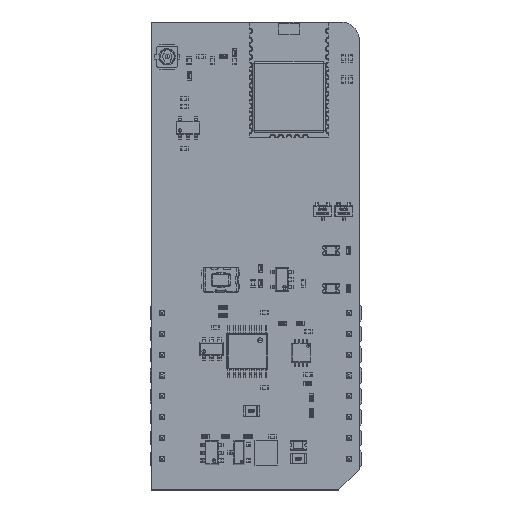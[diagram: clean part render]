
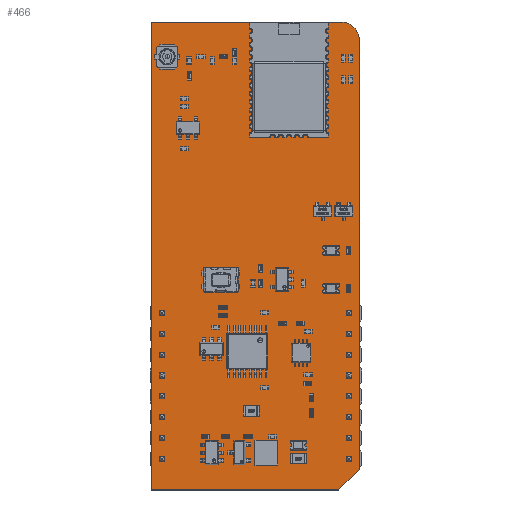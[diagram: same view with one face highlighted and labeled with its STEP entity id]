
A CAD part, top view. The second image highlights one B-rep face of the part: STEP entity #466.
In plain terms, the highlighted planar face has unit normal (0, 0, 1).
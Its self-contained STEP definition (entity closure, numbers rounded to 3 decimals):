
#271 = VERTEX_POINT('',#272);
#272 = CARTESIAN_POINT('',(-1.27,-3.81,0.));
#278 = EDGE_CURVE('',#271,#279,#281,.T.);
#279 = VERTEX_POINT('',#280);
#280 = CARTESIAN_POINT('',(-1.27,53.34,0.));
#281 = LINE('',#282,#283);
#282 = CARTESIAN_POINT('',(-1.27,-3.81,0.));
#283 = VECTOR('',#284,1.);
#284 = DIRECTION('',(0.,1.,0.));
#309 = EDGE_CURVE('',#279,#310,#312,.T.);
#310 = VERTEX_POINT('',#311);
#311 = CARTESIAN_POINT('',(21.844,53.34,0.));
#312 = LINE('',#313,#314);
#313 = CARTESIAN_POINT('',(-1.27,53.34,0.));
#314 = VECTOR('',#315,1.);
#315 = DIRECTION('',(1.,0.,0.));
#340 = EDGE_CURVE('',#310,#341,#343,.T.);
#341 = VERTEX_POINT('',#342);
#342 = CARTESIAN_POINT('',(24.13,51.054,0.));
#343 = CIRCLE('',#344,2.288);
#344 = AXIS2_PLACEMENT_3D('',#345,#346,#347);
#345 = CARTESIAN_POINT('',(21.842,51.052,0.));
#346 = DIRECTION('',(0.,0.,-1.));
#347 = DIRECTION('',(0.001,1.,0.));
#373 = EDGE_CURVE('',#341,#374,#376,.T.);
#374 = VERTEX_POINT('',#375);
#375 = CARTESIAN_POINT('',(24.13,-1.27,0.));
#376 = LINE('',#377,#378);
#377 = CARTESIAN_POINT('',(24.13,51.054,0.));
#378 = VECTOR('',#379,1.);
#379 = DIRECTION('',(0.,-1.,0.));
#404 = EDGE_CURVE('',#374,#405,#407,.T.);
#405 = VERTEX_POINT('',#406);
#406 = CARTESIAN_POINT('',(21.59,-3.81,0.));
#407 = LINE('',#408,#409);
#408 = CARTESIAN_POINT('',(24.13,-1.27,0.));
#409 = VECTOR('',#410,1.);
#410 = DIRECTION('',(-0.707,-0.707,0.));
#435 = EDGE_CURVE('',#405,#271,#436,.T.);
#436 = LINE('',#437,#438);
#437 = CARTESIAN_POINT('',(21.59,-3.81,0.));
#438 = VECTOR('',#439,1.);
#439 = DIRECTION('',(-1.,0.,0.));
#466 = ADVANCED_FACE('',(#467),#475,.T.);
#467 = FACE_BOUND('',#468,.F.);
#468 = EDGE_LOOP('',(#469,#470,#471,#472,#473,#474));
#469 = ORIENTED_EDGE('',*,*,#278,.T.);
#470 = ORIENTED_EDGE('',*,*,#309,.T.);
#471 = ORIENTED_EDGE('',*,*,#340,.T.);
#472 = ORIENTED_EDGE('',*,*,#373,.T.);
#473 = ORIENTED_EDGE('',*,*,#404,.T.);
#474 = ORIENTED_EDGE('',*,*,#435,.T.);
#475 = PLANE('',#476);
#476 = AXIS2_PLACEMENT_3D('',#477,#478,#479);
#477 = CARTESIAN_POINT('',(-1.27,-3.81,0.));
#478 = DIRECTION('',(0.,0.,1.));
#479 = DIRECTION('',(1.,0.,0.));
